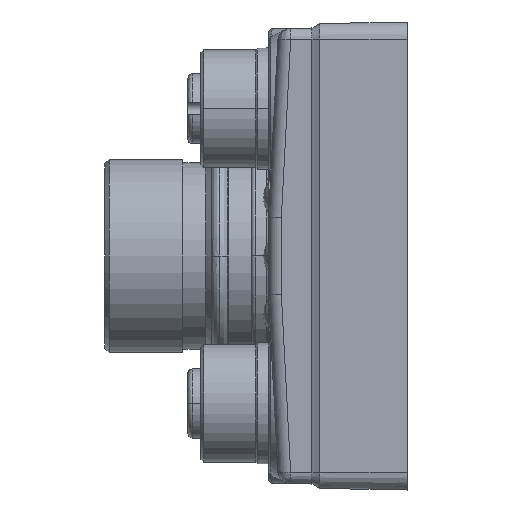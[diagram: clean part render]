
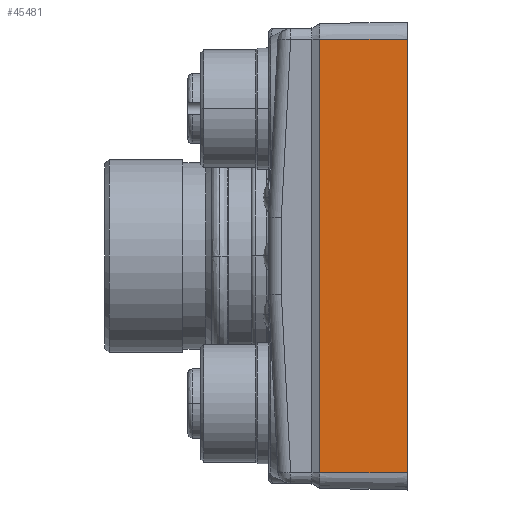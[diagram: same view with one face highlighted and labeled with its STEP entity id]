
A CAD part, left-side view. The second image highlights one B-rep face of the part: STEP entity #45481.
In plain terms, the highlighted planar face has unit normal (-1, 0.018, 0).
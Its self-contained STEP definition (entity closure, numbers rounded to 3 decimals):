
#39 = VECTOR ( 'NONE', #17495, 1000. ) ;
#1618 = LINE ( 'NONE', #42437, #39 ) ;
#5199 = VECTOR ( 'NONE', #8144, 1000. ) ;
#6313 = EDGE_LOOP ( 'NONE', ( #39756, #46351, #31834, #35948 ) ) ;
#8144 = DIRECTION ( 'NONE',  ( 0., 0., -1. ) ) ;
#8592 = VECTOR ( 'NONE', #11374, 1000. ) ;
#8968 = DIRECTION ( 'NONE',  ( -0.017, -1., 0. ) ) ;
#11374 = DIRECTION ( 'NONE',  ( 0., 0., 1. ) ) ;
#12633 = PLANE ( 'NONE',  #53155 ) ;
#13117 = EDGE_CURVE ( 'NONE', #15580, #36353, #20612, .T. ) ;
#13309 = LINE ( 'NONE', #65067, #64305 ) ;
#15580 = VERTEX_POINT ( 'NONE', #56545 ) ;
#17124 = EDGE_CURVE ( 'NONE', #29330, #36353, #13309, .T. ) ;
#17495 = DIRECTION ( 'NONE',  ( -0.017, -1., 0. ) ) ;
#20612 = LINE ( 'NONE', #36817, #8592 ) ;
#24662 = EDGE_CURVE ( 'NONE', #35252, #15580, #1618, .T. ) ;
#29330 = VERTEX_POINT ( 'NONE', #36483 ) ;
#31834 = ORIENTED_EDGE ( 'NONE', *, *, #24662, .T. ) ;
#32369 = LINE ( 'NONE', #33832, #5199 ) ;
#33832 = CARTESIAN_POINT ( 'NONE',  ( -77.421, 9.183, -23.381 ) ) ;
#35252 = VERTEX_POINT ( 'NONE', #48411 ) ;
#35948 = ORIENTED_EDGE ( 'NONE', *, *, #13117, .T. ) ;
#36353 = VERTEX_POINT ( 'NONE', #45947 ) ;
#36483 = CARTESIAN_POINT ( 'NONE',  ( -77.421, 9.183, 26.619 ) ) ;
#36817 = CARTESIAN_POINT ( 'NONE',  ( -77.597, -0.918, -23.381 ) ) ;
#38225 = EDGE_CURVE ( 'NONE', #29330, #35252, #32369, .T. ) ;
#39060 = FACE_OUTER_BOUND ( 'NONE', #6313, .T. ) ;
#39756 = ORIENTED_EDGE ( 'NONE', *, *, #17124, .F. ) ;
#42437 = CARTESIAN_POINT ( 'NONE',  ( -77.597, -0.918, -23.381 ) ) ;
#45481 = ADVANCED_FACE ( 'NONE', ( #39060 ), #12633, .T. ) ;
#45947 = CARTESIAN_POINT ( 'NONE',  ( -77.597, -0.918, 26.619 ) ) ;
#46351 = ORIENTED_EDGE ( 'NONE', *, *, #38225, .T. ) ;
#48411 = CARTESIAN_POINT ( 'NONE',  ( -77.421, 9.183, -23.381 ) ) ;
#48510 = CARTESIAN_POINT ( 'NONE',  ( -77.597, -0.918, -23.381 ) ) ;
#53155 = AXIS2_PLACEMENT_3D ( 'NONE', #48510, #58514, #63848 ) ;
#56545 = CARTESIAN_POINT ( 'NONE',  ( -77.597, -0.918, -23.381 ) ) ;
#58514 = DIRECTION ( 'NONE',  ( -1., 0.017, 0. ) ) ;
#63848 = DIRECTION ( 'NONE',  ( -0.017, -1., 0. ) ) ;
#64305 = VECTOR ( 'NONE', #8968, 1000. ) ;
#65067 = CARTESIAN_POINT ( 'NONE',  ( -77.597, -0.918, 26.619 ) ) ;
